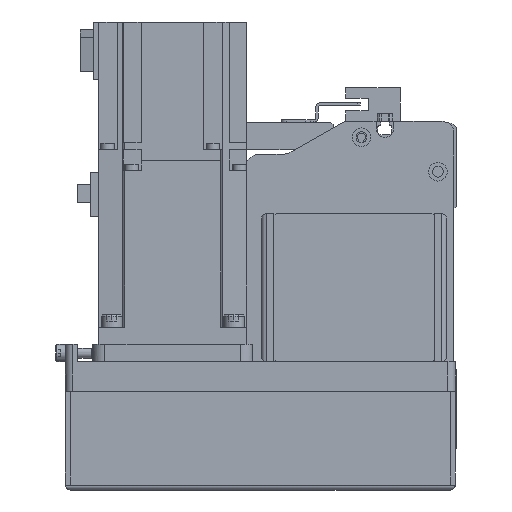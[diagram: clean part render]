
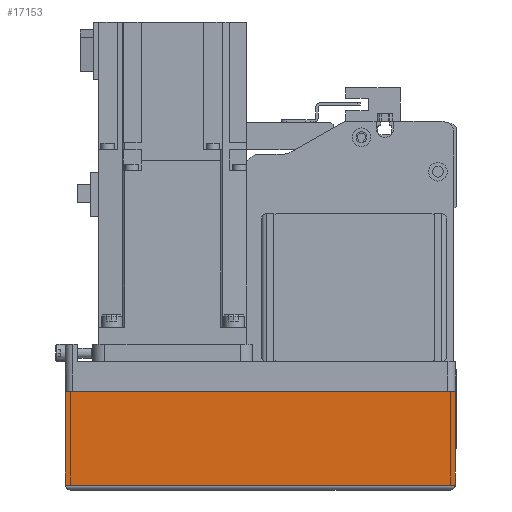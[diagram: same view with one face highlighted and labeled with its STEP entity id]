
A CAD part, left-side view. The second image highlights one B-rep face of the part: STEP entity #17153.
In plain terms, the highlighted planar face has unit normal (-1, 0, 0) as drawn and (0, -1, 0) by its records, which use the part's own axes.
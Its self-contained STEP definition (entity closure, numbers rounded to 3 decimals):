
#2694=ORIENTED_EDGE('',*,*,#6889,.F.);
#2695=ORIENTED_EDGE('',*,*,#6871,.F.);
#2696=ORIENTED_EDGE('',*,*,#6906,.T.);
#2697=ORIENTED_EDGE('',*,*,#6961,.T.);
#6871=EDGE_CURVE('',#9159,#9160,#10909,.T.);
#6889=EDGE_CURVE('',#9160,#9176,#10927,.T.);
#6906=EDGE_CURVE('',#9159,#9186,#10940,.T.);
#6961=EDGE_CURVE('',#9186,#9176,#10968,.T.);
#9159=VERTEX_POINT('',#26322);
#9160=VERTEX_POINT('',#26323);
#9176=VERTEX_POINT('',#26360);
#9186=VERTEX_POINT('',#26390);
#10909=LINE('',#26321,#12519);
#10927=LINE('',#26359,#12537);
#10940=LINE('',#26391,#12550);
#10968=LINE('',#26489,#12578);
#12519=VECTOR('',#21071,1000.);
#12537=VECTOR('',#21095,1000.);
#12550=VECTOR('',#21124,1000.);
#12578=VECTOR('',#21252,1000.);
#14017=EDGE_LOOP('',(#2694,#2695,#2696,#2697));
#15307=FACE_BOUND('',#14017,.T.);
#16424=PLANE('',#18406);
#17153=ADVANCED_FACE('',(#15307),#16424,.T.);
#18406=AXIS2_PLACEMENT_3D('',#26490,#21253,#21254);
#21071=DIRECTION('',(1.,0.,0.));
#21095=DIRECTION('',(0.,0.,-1.));
#21124=DIRECTION('',(0.,0.,-1.));
#21252=DIRECTION('',(1.,0.,0.));
#21253=DIRECTION('',(0.,-1.,0.));
#21254=DIRECTION('',(0.,0.,-1.));
#26321=CARTESIAN_POINT('',(-158.,-39.,-12.1));
#26322=CARTESIAN_POINT('',(-158.,-39.,-12.1));
#26323=CARTESIAN_POINT('',(0.,-39.,-12.1));
#26359=CARTESIAN_POINT('',(0.,-39.,-12.1));
#26360=CARTESIAN_POINT('',(0.,-39.,-50.));
#26390=CARTESIAN_POINT('',(-158.,-39.,-50.));
#26391=CARTESIAN_POINT('',(-158.,-39.,-12.1));
#26489=CARTESIAN_POINT('',(-158.,-39.,-50.));
#26490=CARTESIAN_POINT('',(-158.,-39.,-12.1));
